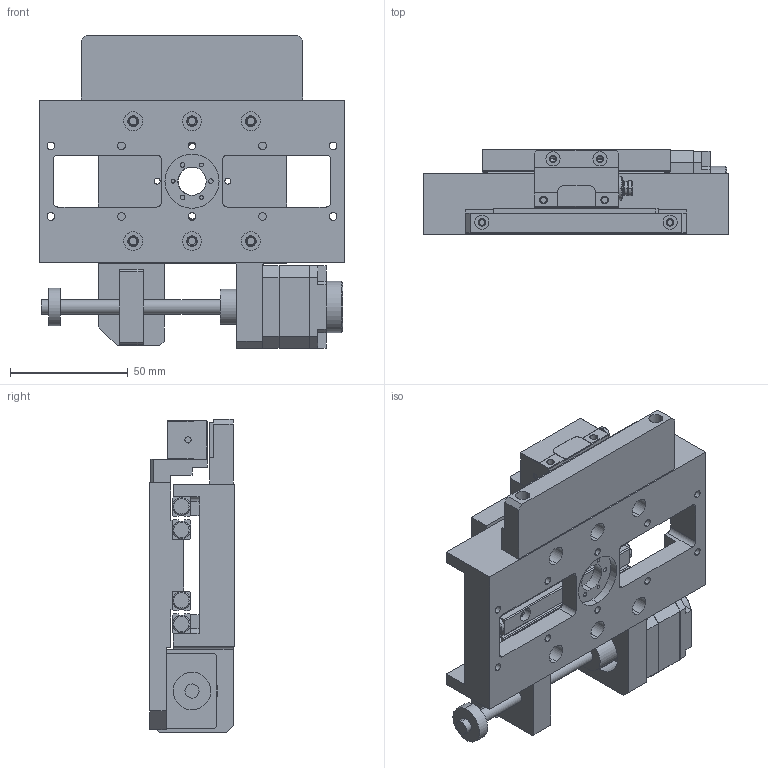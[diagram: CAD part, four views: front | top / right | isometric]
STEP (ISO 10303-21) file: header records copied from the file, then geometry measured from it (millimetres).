
FILE_DESCRIPTION (( 'STEP AP214' ), '1' );
FILE_NAME ('VSM17-X-050-E STEP.STEP', '2022-12-15T12:37:59', ( '' ), ( '' ), 'SwSTEP 2.0', 'SolidWorks 2022', '' );
FILE_SCHEMA (( 'AUTOMOTIVE_DESIGN' ));
Length unit declared in the file: millimetre
Products named in the file (11): Simplified VSM17-X Encoder Mount; Simplified VSM17-X-050 Encoder Scale mount; Simplified Drivetrain_VSM17-X-50; Simplified Encoder; Simplified Leadscrew Nut; Simplified Bearing 050; Simplified Motor_H; Simplified VSM17-X-050 Carriage; Simplified VSM17-X-050 Base V2; Simplified RELA30-50 Scale; VSM17-X-050-E STEP
Assembly tree (13 placements, depth 2):
  VSM17-X-050-E STEP
    Simplified VSM17-X-050 Base V2
    Simplified Bearing 050  x4
    Simplified Motor_H
    Simplified Drivetrain_VSM17-X-50
    Simplified VSM17-X-050 Carriage
    Simplified Leadscrew Nut
    Simplified VSM17-X-050 Encoder Scale mount
    Simplified RELA30-50 Scale
    Simplified VSM17-X Encoder Mount
    Simplified Encoder
Bounding box: 130 x 36 x 133.2 mm (x, y, z)
Volume: 273792.7 mm3; surface area: 99467.3 mm2
Topology: 13 solids, 13 shells, 702 faces, 1778 edges, 1142 vertices
Faces by surface type: plane 320, cylinder 298, cone 62, torus 22
Entity records: 18078 total; most frequent: DIRECTION 3003, CARTESIAN_POINT 2976, ORIENTED_EDGE 2732, EDGE_CURVE 1366, AXIS2_PLACEMENT_3D 1092, VERTEX_POINT 893, VECTOR 819, LINE 819
